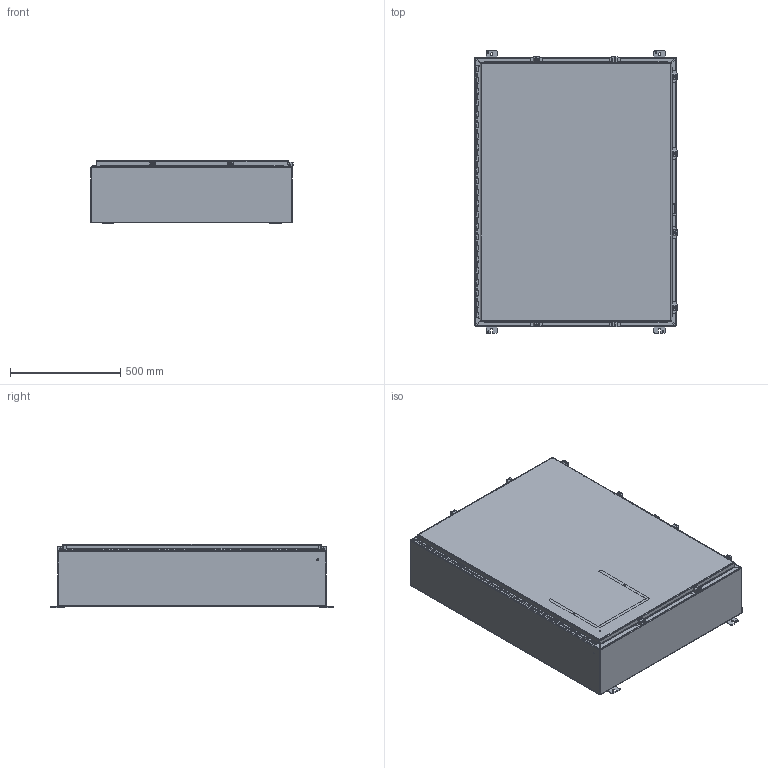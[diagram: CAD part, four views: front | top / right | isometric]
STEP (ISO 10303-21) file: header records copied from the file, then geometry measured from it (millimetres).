
FILE_DESCRIPTION (( 'STEP AP203' ), '1' );
FILE_NAME ('a48h3610sslp.STEP', '2010-03-03T14:49:17', ( 'Hoffman User' ), ( 'Hoffman Enclosures' ), 'SwSTEP 2.0', 'SolidWorks 2009', '' );
FILE_SCHEMA (( 'CONFIG_CONTROL_DESIGN' ));
Length unit declared in the file: inch
Products named in the file (21): 22132004; 22110002; 22300002_brkt_clamp1; stud_m6x16_99401226; wmt_door_48x36; 22107001; 23418001; a48h3610sslp; wmt_body_48x36x10; Body_48x36x10; end_36x10; 22a18_hinge_body_45in; 22112003_22112003; assy_clamp_End1; assy_clamp_Side1; 8756004X_clamp1; Door_48x36; 11158311_CD Stud M4; 99401225_99401225; 22a18_hinge_door_45in; Panel_Nema_A48P36
Assembly tree (40 placements, depth 4):
  a48h3610sslp
    wmt_body_48x36x10
      assy_clamp_End1  x4
        22300002_brkt_clamp1
        8756004X_clamp1
      Body_48x36x10
      22112003_22112003  x8
      22110002  x4
      assy_clamp_Side1  x4
        8756004X_clamp1
        22300002_brkt_clamp1
      stud_m6x16_99401226
      22a18_hinge_body_45in
      end_36x10  x2
      22132004
    Panel_Nema_A48P36
    wmt_door_48x36
      23418001
      Door_48x36
      22a18_hinge_door_45in
      11158311_CD Stud M4  x2
      99401225_99401225
      22107001
Bounding box: 918.08 x 1282.7 x 285.81 mm (x, y, z)
Volume: 9104074.9 mm3; surface area: 9532597.5 mm2
Topology: 42 solids, 42 shells, 2085 faces, 5388 edges, 3434 vertices
Faces by surface type: plane 1072, cylinder 683, bspline 172, torus 98, cone 60
Entity records: 39105 total; most frequent: CARTESIAN_POINT 9121, ORIENTED_EDGE 5764, DIRECTION 5606, EDGE_CURVE 2882, VECTOR 1976, LINE 1976, VERTEX_POINT 1830, AXIS2_PLACEMENT_3D 1815
